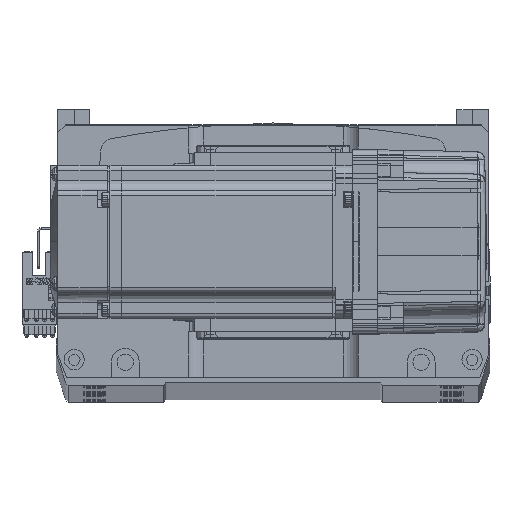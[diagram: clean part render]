
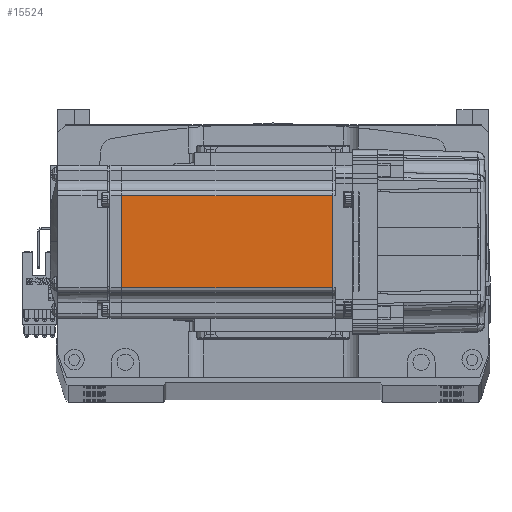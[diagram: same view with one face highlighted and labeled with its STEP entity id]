
A CAD part, top view. The second image highlights one B-rep face of the part: STEP entity #15524.
In plain terms, the highlighted planar face has unit normal (0, 0, 1).
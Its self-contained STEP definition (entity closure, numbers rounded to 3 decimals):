
#1008 = CARTESIAN_POINT ( 'NONE',  ( -90.45, 0., 30. ) ) ;
#3963 = DIRECTION ( 'NONE',  ( 0., -1., 0. ) ) ;
#4679 = VERTEX_POINT ( 'NONE', #64333 ) ;
#7608 = VERTEX_POINT ( 'NONE', #67468 ) ;
#8977 = CARTESIAN_POINT ( 'NONE',  ( -7.75, 0., 30. ) ) ;
#10103 = EDGE_CURVE ( 'NONE', #45085, #4679, #30693, .T. ) ;
#15524 = ADVANCED_FACE ( 'NONE', ( #56830 ), #63804, .T. ) ;
#17592 = DIRECTION ( 'NONE',  ( 0., 0., 1. ) ) ;
#17956 = CARTESIAN_POINT ( 'NONE',  ( -90.45, -18., 30. ) ) ;
#18070 = DIRECTION ( 'NONE',  ( 1., 0., 0. ) ) ;
#21669 = VECTOR ( 'NONE', #3963, 1000. ) ;
#24161 = CARTESIAN_POINT ( 'NONE',  ( -6.5, 18., 30. ) ) ;
#29623 = CARTESIAN_POINT ( 'NONE',  ( -6.5, -25., 30. ) ) ;
#30222 = DIRECTION ( 'NONE',  ( -1., 0., 0. ) ) ;
#30380 = VECTOR ( 'NONE', #51666, 1000. ) ;
#30693 = LINE ( 'NONE', #8977, #21669 ) ;
#33716 = ORIENTED_EDGE ( 'NONE', *, *, #10103, .F. ) ;
#38161 = ORIENTED_EDGE ( 'NONE', *, *, #53773, .T. ) ;
#38876 = ORIENTED_EDGE ( 'NONE', *, *, #53035, .F. ) ;
#41209 = LINE ( 'NONE', #24161, #66127 ) ;
#44558 = ORIENTED_EDGE ( 'NONE', *, *, #53356, .T. ) ;
#44721 = LINE ( 'NONE', #67155, #66992 ) ;
#45085 = VERTEX_POINT ( 'NONE', #47797 ) ;
#47797 = CARTESIAN_POINT ( 'NONE',  ( -7.75, 18., 30. ) ) ;
#48221 = VERTEX_POINT ( 'NONE', #17956 ) ;
#51666 = DIRECTION ( 'NONE',  ( 0., -1., 0. ) ) ;
#53035 = EDGE_CURVE ( 'NONE', #4679, #48221, #44721, .T. ) ;
#53356 = EDGE_CURVE ( 'NONE', #45085, #7608, #41209, .T. ) ;
#53773 = EDGE_CURVE ( 'NONE', #7608, #48221, #70517, .T. ) ;
#56830 = FACE_OUTER_BOUND ( 'NONE', #69071, .T. ) ;
#63804 = PLANE ( 'NONE',  #70790 ) ;
#64333 = CARTESIAN_POINT ( 'NONE',  ( -7.75, -18., 30. ) ) ;
#66127 = VECTOR ( 'NONE', #30222, 1000. ) ;
#66992 = VECTOR ( 'NONE', #67911, 1000. ) ;
#67155 = CARTESIAN_POINT ( 'NONE',  ( -6.5, -18., 30. ) ) ;
#67468 = CARTESIAN_POINT ( 'NONE',  ( -90.45, 18., 30. ) ) ;
#67911 = DIRECTION ( 'NONE',  ( -1., 0., 0. ) ) ;
#69071 = EDGE_LOOP ( 'NONE', ( #33716, #44558, #38161, #38876 ) ) ;
#70517 = LINE ( 'NONE', #1008, #30380 ) ;
#70790 = AXIS2_PLACEMENT_3D ( 'NONE', #29623, #17592, #18070 ) ;
